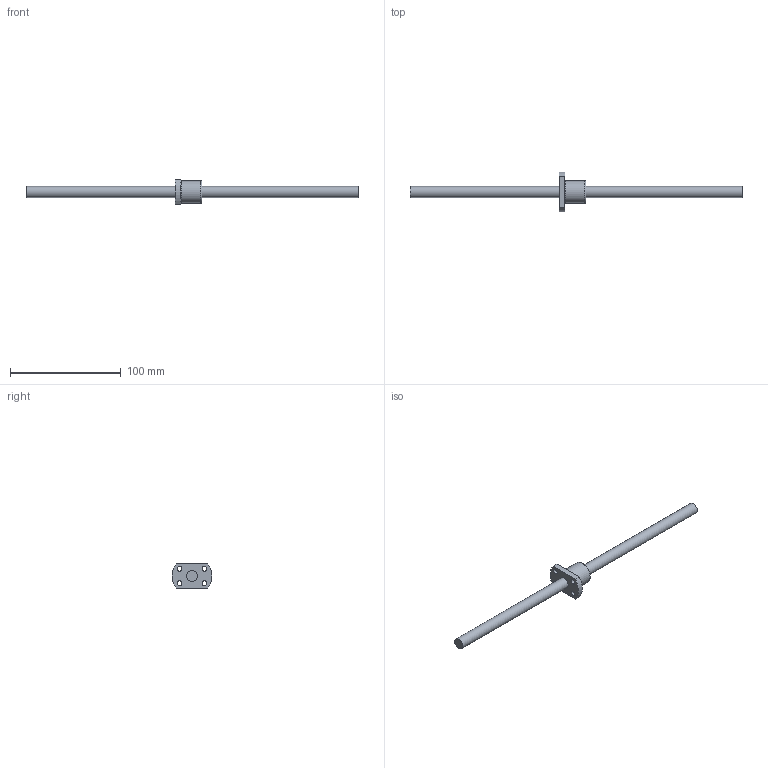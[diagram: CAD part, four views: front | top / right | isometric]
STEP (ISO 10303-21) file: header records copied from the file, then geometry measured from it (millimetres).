
FILE_DESCRIPTION((''),'2;1');
FILE_NAME('D:\製品 (図面)\カタログ用3D\ネジ関連\STEP形式\TMK\TMK10.stp','2010-06-02T15:21:46',('Tsuchiya'),(''),'Autodesk Inventor 10','Autodesk Inventor 10','');
FILE_SCHEMA(('AUTOMOTIVE_DESIGN { 1 0 10303 214 1 1 1 1 }'));
Length unit declared in the file: millimetre
Products named in the file (3): TMK10; TMK101; TMK102
Assembly tree (2 placements, depth 2):
  TMK10
    TMK101
    TMK102
Bounding box: 300 x 36 x 22 mm (x, y, z)
Volume: 31043.2 mm3; surface area: 13486.3 mm2
Topology: 2 solids, 2 shells, 18 faces, 41 edges, 28 vertices
Faces by surface type: plane 7, cylinder 5, bspline 5, torus 1
Full cylindrical faces by diameter (mm): 10 x2, 20 x1
Entity records: 628 total; most frequent: CARTESIAN_POINT 187, DIRECTION 84, ORIENTED_EDGE 56, AXIS2_PLACEMENT_3D 38, EDGE_LOOP 38, EDGE_CURVE 28, VERTEX_POINT 24, CIRCLE 20
